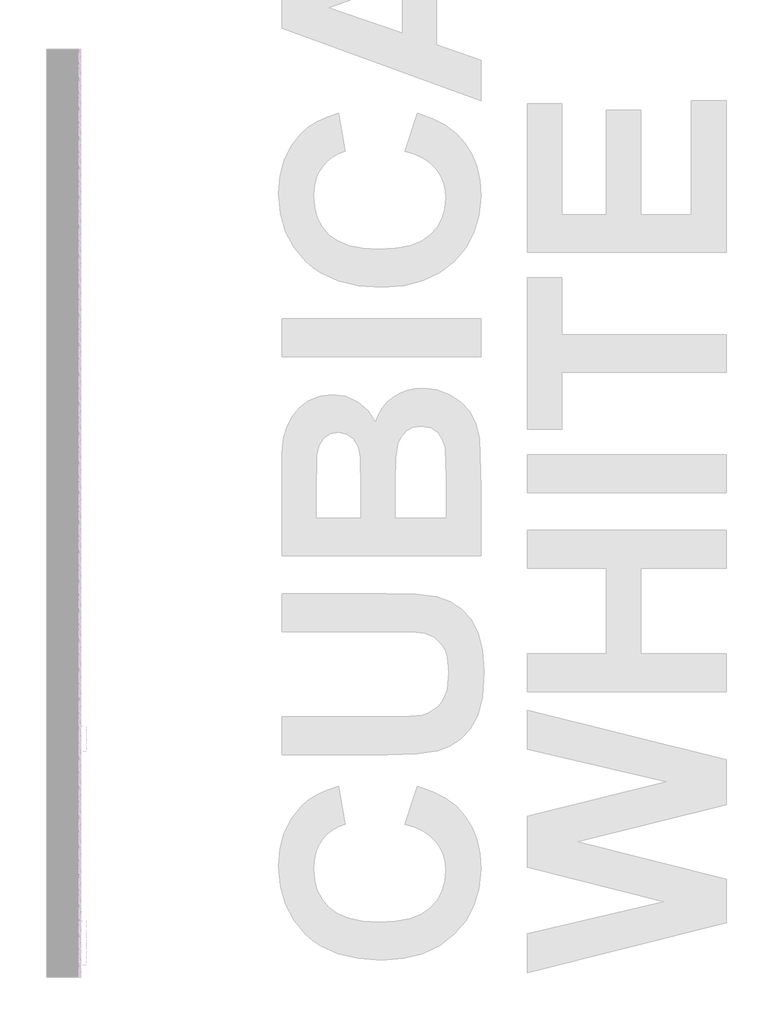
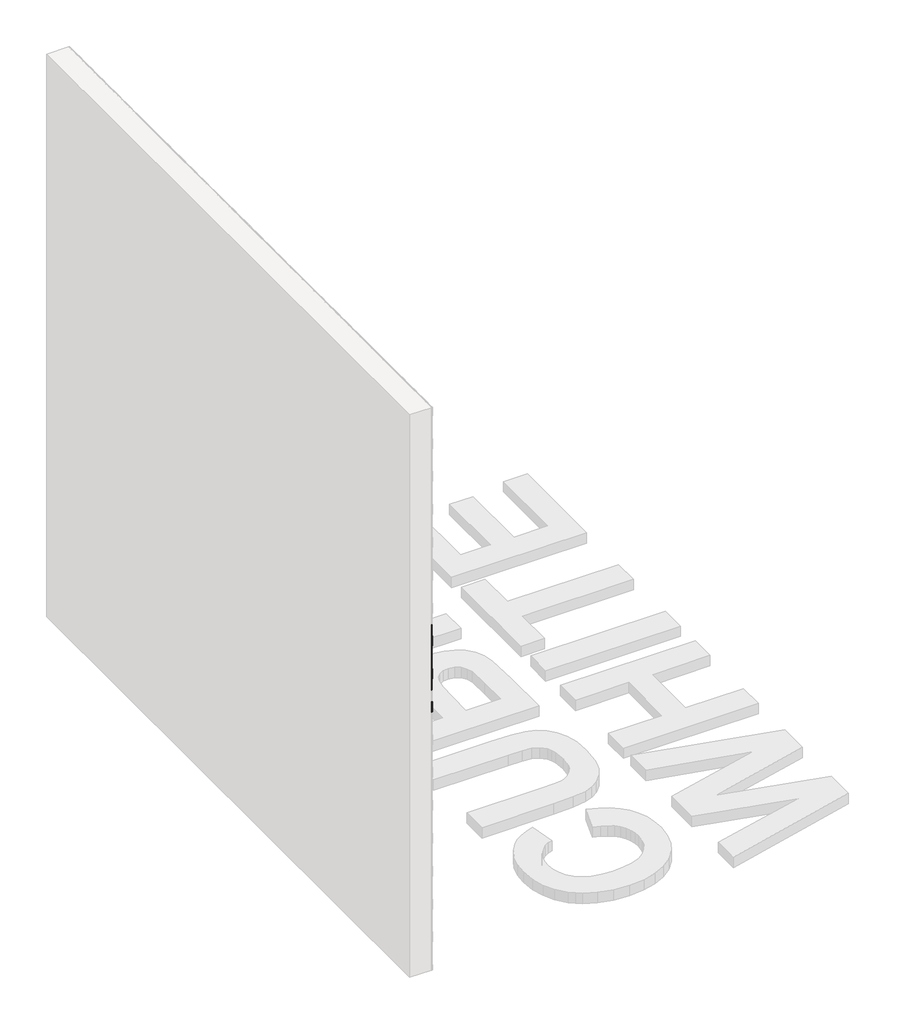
# One storey, part 101 of 121: 144 proxies.
"""IFC4 building model written with IfcOpenShell, lengths in millimetres."""

from ifc_helpers import new_model, si_unit, origin, place, context, project, spatial, transform, mapped, element, save
from components import generic_models_b2b2c5c1, generic_models_9bf73f6f, generic_models_5d175859, generic_models_45888c4d

model = new_model("IFC4")

# Units and contexts
model_context = context("Model", 3, world=origin())
ifc_project = project(units=[si_unit("LENGTHUNIT", "METRE", prefix="MILLI")], contexts=[model_context])

# Site, building, storey
site = spatial("IfcSite", under=ifc_project)
building = spatial("IfcBuilding", under=site)
storey = spatial("IfcBuildingStorey", under=building, Name="PORTOBELLO - SHOWROOM", Elevation=0.0)

# Proxies
placement = place(None, origin())
generic_models_shape = generic_models_b2b2c5c1(model_context)
element("IfcBuildingElementProxy", 1, Name="PBSHOP - CUBICA WHITE 4,8X8,3 : CUBICA WHITE - POSIÇÃO 01", ObjectType="PBSHOP - CUBICA WHITE 4,8X8,3 : CUBICA WHITE - POSIÇÃO 01", at=placement, inside=storey, context=model_context, shape_type="MappedRepresentation", body=[
    mapped(generic_models_shape, transform((150369.5341846, 19241.9673802, 1381.3110192), x_axis=(0.0, 1.0, 0.0), y_axis=(0.0, 0.0, 1.0), z_axis=(1.0, 0.0, 0.0))),
])
element("IfcBuildingElementProxy", 2, Name="PBSHOP - CUBICA WHITE 4,8X8,3 : CUBICA WHITE - POSIÇÃO 01", ObjectType="PBSHOP - CUBICA WHITE 4,8X8,3 : CUBICA WHITE - POSIÇÃO 01", at=placement, inside=storey, context=model_context, shape_type="MappedRepresentation", body=[
    mapped(generic_models_shape, transform((150369.5341846, 19332.8066494, 1381.3110192), x_axis=(0.0, 1.0, 0.0), y_axis=(0.0, 0.0, 1.0), z_axis=(1.0, 0.0, 0.0))),
])
element("IfcBuildingElementProxy", 3, Name="PBSHOP - CUBICA WHITE 4,8X8,3 : CUBICA WHITE - POSIÇÃO 01", ObjectType="PBSHOP - CUBICA WHITE 4,8X8,3 : CUBICA WHITE - POSIÇÃO 01", at=placement, inside=storey, context=model_context, shape_type="MappedRepresentation", body=[
    mapped(generic_models_shape, transform((150369.5341846, 19423.6459187, 1381.3110192), x_axis=(0.0, 1.0, 0.0), y_axis=(0.0, 0.0, 1.0), z_axis=(1.0, 0.0, 0.0))),
])
element("IfcBuildingElementProxy", 4, Name="PBSHOP - CUBICA WHITE 4,8X8,3 : CUBICA WHITE - POSIÇÃO 01", ObjectType="PBSHOP - CUBICA WHITE 4,8X8,3 : CUBICA WHITE - POSIÇÃO 01", at=placement, inside=storey, context=model_context, shape_type="MappedRepresentation", body=[
    mapped(generic_models_shape, transform((150369.5341846, 19514.4851879, 1381.3110192), x_axis=(0.0, 1.0, 0.0), y_axis=(0.0, 0.0, 1.0), z_axis=(1.0, 0.0, 0.0))),
])
element("IfcBuildingElementProxy", 5, Name="PBSHOP - CUBICA WHITE 4,8X8,3 : CUBICA WHITE - POSIÇÃO 01", ObjectType="PBSHOP - CUBICA WHITE 4,8X8,3 : CUBICA WHITE - POSIÇÃO 01", at=placement, inside=storey, context=model_context, shape_type="MappedRepresentation", body=[
    mapped(generic_models_shape, transform((150369.5341846, 19605.3244572, 1381.3110192), x_axis=(0.0, 1.0, 0.0), y_axis=(0.0, 0.0, 1.0), z_axis=(1.0, 0.0, 0.0))),
])
element("IfcBuildingElementProxy", 6, Name="PBSHOP - CUBICA WHITE 4,8X8,3 : CUBICA WHITE - POSIÇÃO 01", ObjectType="PBSHOP - CUBICA WHITE 4,8X8,3 : CUBICA WHITE - POSIÇÃO 01", at=placement, inside=storey, context=model_context, shape_type="MappedRepresentation", body=[
    mapped(generic_models_shape, transform((150369.5341846, 19696.1637264, 1381.3110192), x_axis=(0.0, 1.0, 0.0), y_axis=(0.0, 0.0, 1.0), z_axis=(1.0, 0.0, 0.0))),
])
element("IfcBuildingElementProxy", 7, Name="PBSHOP - CUBICA WHITE 4,8X8,3 : CUBICA WHITE - POSIÇÃO 01", ObjectType="PBSHOP - CUBICA WHITE 4,8X8,3 : CUBICA WHITE - POSIÇÃO 01", at=placement, inside=storey, context=model_context, shape_type="MappedRepresentation", body=[
    mapped(generic_models_shape, transform((150369.5341846, 19787.0029957, 1381.3110192), x_axis=(0.0, 1.0, 0.0), y_axis=(0.0, 0.0, 1.0), z_axis=(1.0, 0.0, 0.0))),
])
element("IfcBuildingElementProxy", 8, Name="PBSHOP - CUBICA WHITE 4,8X8,3 : CUBICA WHITE - POSIÇÃO 01", ObjectType="PBSHOP - CUBICA WHITE 4,8X8,3 : CUBICA WHITE - POSIÇÃO 01", at=placement, inside=storey, context=model_context, shape_type="MappedRepresentation", body=[
    mapped(generic_models_shape, transform((150369.5341846, 19877.8422649, 1381.3110192), x_axis=(0.0, 1.0, 0.0), y_axis=(0.0, 0.0, 1.0), z_axis=(1.0, 0.0, 0.0))),
])
element("IfcBuildingElementProxy", 9, Name="PBSHOP - CUBICA WHITE 4,8X8,3 : CUBICA WHITE - POSIÇÃO 01", ObjectType="PBSHOP - CUBICA WHITE 4,8X8,3 : CUBICA WHITE - POSIÇÃO 01", at=placement, inside=storey, context=model_context, shape_type="MappedRepresentation", body=[
    mapped(generic_models_shape, transform((150369.5341846, 19968.6815341, 1381.3110192), x_axis=(0.0, 1.0, 0.0), y_axis=(0.0, 0.0, 1.0), z_axis=(1.0, 0.0, 0.0))),
])
element("IfcBuildingElementProxy", 10, Name="PBSHOP - CUBICA WHITE 4,8X8,3 : CUBICA WHITE - POSIÇÃO 01", ObjectType="PBSHOP - CUBICA WHITE 4,8X8,3 : CUBICA WHITE - POSIÇÃO 01", at=placement, inside=storey, context=model_context, shape_type="MappedRepresentation", body=[
    mapped(generic_models_shape, transform((150369.5341846, 19196.5477456, 1460.2456575), x_axis=(0.0, 1.0, 0.0), y_axis=(0.0, 0.0, 1.0), z_axis=(1.0, 0.0, 0.0))),
])
element("IfcBuildingElementProxy", 11, Name="PBSHOP - CUBICA WHITE 4,8X8,3 : CUBICA WHITE - POSIÇÃO 01", ObjectType="PBSHOP - CUBICA WHITE 4,8X8,3 : CUBICA WHITE - POSIÇÃO 01", at=placement, inside=storey, context=model_context, shape_type="MappedRepresentation", body=[
    mapped(generic_models_shape, transform((150369.5341846, 19287.3870148, 1460.2456575), x_axis=(0.0, 1.0, 0.0), y_axis=(0.0, 0.0, 1.0), z_axis=(1.0, 0.0, 0.0))),
])
element("IfcBuildingElementProxy", 12, Name="PBSHOP - CUBICA WHITE 4,8X8,3 : CUBICA WHITE - POSIÇÃO 01", ObjectType="PBSHOP - CUBICA WHITE 4,8X8,3 : CUBICA WHITE - POSIÇÃO 01", at=placement, inside=storey, context=model_context, shape_type="MappedRepresentation", body=[
    mapped(generic_models_shape, transform((150369.5341846, 19378.2262841, 1460.2456575), x_axis=(0.0, 1.0, 0.0), y_axis=(0.0, 0.0, 1.0), z_axis=(1.0, 0.0, 0.0))),
])
element("IfcBuildingElementProxy", 13, Name="PBSHOP - CUBICA WHITE 4,8X8,3 : CUBICA WHITE - POSIÇÃO 01", ObjectType="PBSHOP - CUBICA WHITE 4,8X8,3 : CUBICA WHITE - POSIÇÃO 01", at=placement, inside=storey, context=model_context, shape_type="MappedRepresentation", body=[
    mapped(generic_models_shape, transform((150369.5341846, 19469.0655533, 1460.2456575), x_axis=(0.0, 1.0, 0.0), y_axis=(0.0, 0.0, 1.0), z_axis=(1.0, 0.0, 0.0))),
])
element("IfcBuildingElementProxy", 14, Name="PBSHOP - CUBICA WHITE 4,8X8,3 : CUBICA WHITE - POSIÇÃO 01", ObjectType="PBSHOP - CUBICA WHITE 4,8X8,3 : CUBICA WHITE - POSIÇÃO 01", at=placement, inside=storey, context=model_context, shape_type="MappedRepresentation", body=[
    mapped(generic_models_shape, transform((150369.5341846, 19559.9048225, 1460.2456575), x_axis=(0.0, 1.0, 0.0), y_axis=(0.0, 0.0, 1.0), z_axis=(1.0, 0.0, 0.0))),
])
element("IfcBuildingElementProxy", 15, Name="PBSHOP - CUBICA WHITE 4,8X8,3 : CUBICA WHITE - POSIÇÃO 01", ObjectType="PBSHOP - CUBICA WHITE 4,8X8,3 : CUBICA WHITE - POSIÇÃO 01", at=placement, inside=storey, context=model_context, shape_type="MappedRepresentation", body=[
    mapped(generic_models_shape, transform((150369.5341846, 19650.7440918, 1460.2456575), x_axis=(0.0, 1.0, 0.0), y_axis=(0.0, 0.0, 1.0), z_axis=(1.0, 0.0, 0.0))),
])
element("IfcBuildingElementProxy", 16, Name="PBSHOP - CUBICA WHITE 4,8X8,3 : CUBICA WHITE - POSIÇÃO 01", ObjectType="PBSHOP - CUBICA WHITE 4,8X8,3 : CUBICA WHITE - POSIÇÃO 01", at=placement, inside=storey, context=model_context, shape_type="MappedRepresentation", body=[
    mapped(generic_models_shape, transform((150369.5341846, 19741.583361, 1460.2456575), x_axis=(0.0, 1.0, 0.0), y_axis=(0.0, 0.0, 1.0), z_axis=(1.0, 0.0, 0.0))),
])
element("IfcBuildingElementProxy", 17, Name="PBSHOP - CUBICA WHITE 4,8X8,3 : CUBICA WHITE - POSIÇÃO 01", ObjectType="PBSHOP - CUBICA WHITE 4,8X8,3 : CUBICA WHITE - POSIÇÃO 01", at=placement, inside=storey, context=model_context, shape_type="MappedRepresentation", body=[
    mapped(generic_models_shape, transform((150369.5341846, 19832.4226303, 1460.2456575), x_axis=(0.0, 1.0, 0.0), y_axis=(0.0, 0.0, 1.0), z_axis=(1.0, 0.0, 0.0))),
])
element("IfcBuildingElementProxy", 18, Name="PBSHOP - CUBICA WHITE 4,8X8,3 : CUBICA WHITE - POSIÇÃO 01", ObjectType="PBSHOP - CUBICA WHITE 4,8X8,3 : CUBICA WHITE - POSIÇÃO 01", at=placement, inside=storey, context=model_context, shape_type="MappedRepresentation", body=[
    mapped(generic_models_shape, transform((150369.5341846, 19923.2618995, 1460.2456575), x_axis=(0.0, 1.0, 0.0), y_axis=(0.0, 0.0, 1.0), z_axis=(1.0, 0.0, 0.0))),
])
element("IfcBuildingElementProxy", 19, Name="PBSHOP - CUBICA WHITE 4,8X8,3 : CUBICA WHITE - POSIÇÃO 01", ObjectType="PBSHOP - CUBICA WHITE 4,8X8,3 : CUBICA WHITE - POSIÇÃO 01", at=placement, inside=storey, context=model_context, shape_type="MappedRepresentation", body=[
    mapped(generic_models_shape, transform((150369.5341846, 19241.9673802, 1539.1802959), x_axis=(0.0, 1.0, 0.0), y_axis=(0.0, 0.0, 1.0), z_axis=(1.0, 0.0, 0.0))),
])
element("IfcBuildingElementProxy", 20, Name="PBSHOP - CUBICA WHITE 4,8X8,3 : CUBICA WHITE - POSIÇÃO 01", ObjectType="PBSHOP - CUBICA WHITE 4,8X8,3 : CUBICA WHITE - POSIÇÃO 01", at=placement, inside=storey, context=model_context, shape_type="MappedRepresentation", body=[
    mapped(generic_models_shape, transform((150369.5341846, 19332.8066494, 1539.1802959), x_axis=(0.0, 1.0, 0.0), y_axis=(0.0, 0.0, 1.0), z_axis=(1.0, 0.0, 0.0))),
])
element("IfcBuildingElementProxy", 21, Name="PBSHOP - CUBICA WHITE 4,8X8,3 : CUBICA WHITE - POSIÇÃO 01", ObjectType="PBSHOP - CUBICA WHITE 4,8X8,3 : CUBICA WHITE - POSIÇÃO 01", at=placement, inside=storey, context=model_context, shape_type="MappedRepresentation", body=[
    mapped(generic_models_shape, transform((150369.5341846, 19423.6459187, 1539.1802959), x_axis=(0.0, 1.0, 0.0), y_axis=(0.0, 0.0, 1.0), z_axis=(1.0, 0.0, 0.0))),
])
element("IfcBuildingElementProxy", 22, Name="PBSHOP - CUBICA WHITE 4,8X8,3 : CUBICA WHITE - POSIÇÃO 01", ObjectType="PBSHOP - CUBICA WHITE 4,8X8,3 : CUBICA WHITE - POSIÇÃO 01", at=placement, inside=storey, context=model_context, shape_type="MappedRepresentation", body=[
    mapped(generic_models_shape, transform((150369.5341846, 19514.4851879, 1539.1802959), x_axis=(0.0, 1.0, 0.0), y_axis=(0.0, 0.0, 1.0), z_axis=(1.0, 0.0, 0.0))),
])
element("IfcBuildingElementProxy", 23, Name="PBSHOP - CUBICA WHITE 4,8X8,3 : CUBICA WHITE - POSIÇÃO 01", ObjectType="PBSHOP - CUBICA WHITE 4,8X8,3 : CUBICA WHITE - POSIÇÃO 01", at=placement, inside=storey, context=model_context, shape_type="MappedRepresentation", body=[
    mapped(generic_models_shape, transform((150369.5341846, 19605.3244572, 1539.1802959), x_axis=(0.0, 1.0, 0.0), y_axis=(0.0, 0.0, 1.0), z_axis=(1.0, 0.0, 0.0))),
])
element("IfcBuildingElementProxy", 24, Name="PBSHOP - CUBICA WHITE 4,8X8,3 : CUBICA WHITE - POSIÇÃO 01", ObjectType="PBSHOP - CUBICA WHITE 4,8X8,3 : CUBICA WHITE - POSIÇÃO 01", at=placement, inside=storey, context=model_context, shape_type="MappedRepresentation", body=[
    mapped(generic_models_shape, transform((150369.5341846, 19696.1637264, 1539.1802959), x_axis=(0.0, 1.0, 0.0), y_axis=(0.0, 0.0, 1.0), z_axis=(1.0, 0.0, 0.0))),
])
element("IfcBuildingElementProxy", 25, Name="PBSHOP - CUBICA WHITE 4,8X8,3 : CUBICA WHITE - POSIÇÃO 01", ObjectType="PBSHOP - CUBICA WHITE 4,8X8,3 : CUBICA WHITE - POSIÇÃO 01", at=placement, inside=storey, context=model_context, shape_type="MappedRepresentation", body=[
    mapped(generic_models_shape, transform((150369.5341846, 19787.0029957, 1539.1802959), x_axis=(0.0, 1.0, 0.0), y_axis=(0.0, 0.0, 1.0), z_axis=(1.0, 0.0, 0.0))),
])
element("IfcBuildingElementProxy", 26, Name="PBSHOP - CUBICA WHITE 4,8X8,3 : CUBICA WHITE - POSIÇÃO 01", ObjectType="PBSHOP - CUBICA WHITE 4,8X8,3 : CUBICA WHITE - POSIÇÃO 01", at=placement, inside=storey, context=model_context, shape_type="MappedRepresentation", body=[
    mapped(generic_models_shape, transform((150369.5341846, 19877.8422649, 1539.1802959), x_axis=(0.0, 1.0, 0.0), y_axis=(0.0, 0.0, 1.0), z_axis=(1.0, 0.0, 0.0))),
])
element("IfcBuildingElementProxy", 27, Name="PBSHOP - CUBICA WHITE 4,8X8,3 : CUBICA WHITE - POSIÇÃO 01", ObjectType="PBSHOP - CUBICA WHITE 4,8X8,3 : CUBICA WHITE - POSIÇÃO 01", at=placement, inside=storey, context=model_context, shape_type="MappedRepresentation", body=[
    mapped(generic_models_shape, transform((150369.5341846, 19968.6815341, 1539.1802959), x_axis=(0.0, 1.0, 0.0), y_axis=(0.0, 0.0, 1.0), z_axis=(1.0, 0.0, 0.0))),
])
element("IfcBuildingElementProxy", 28, Name="PBSHOP - CUBICA WHITE 4,8X8,3 : CUBICA WHITE - POSIÇÃO 01", ObjectType="PBSHOP - CUBICA WHITE 4,8X8,3 : CUBICA WHITE - POSIÇÃO 01", at=placement, inside=storey, context=model_context, shape_type="MappedRepresentation", body=[
    mapped(generic_models_shape, transform((150369.5341846, 19196.5477456, 1618.1149343), x_axis=(0.0, 1.0, 0.0), y_axis=(0.0, 0.0, 1.0), z_axis=(1.0, 0.0, 0.0))),
])
element("IfcBuildingElementProxy", 29, Name="PBSHOP - CUBICA WHITE 4,8X8,3 : CUBICA WHITE - POSIÇÃO 01", ObjectType="PBSHOP - CUBICA WHITE 4,8X8,3 : CUBICA WHITE - POSIÇÃO 01", at=placement, inside=storey, context=model_context, shape_type="MappedRepresentation", body=[
    mapped(generic_models_shape, transform((150369.5341846, 19287.3870148, 1618.1149343), x_axis=(0.0, 1.0, 0.0), y_axis=(0.0, 0.0, 1.0), z_axis=(1.0, 0.0, 0.0))),
])
element("IfcBuildingElementProxy", 30, Name="PBSHOP - CUBICA WHITE 4,8X8,3 : CUBICA WHITE - POSIÇÃO 01", ObjectType="PBSHOP - CUBICA WHITE 4,8X8,3 : CUBICA WHITE - POSIÇÃO 01", at=placement, inside=storey, context=model_context, shape_type="MappedRepresentation", body=[
    mapped(generic_models_shape, transform((150369.5341846, 19378.2262841, 1618.1149343), x_axis=(0.0, 1.0, 0.0), y_axis=(0.0, 0.0, 1.0), z_axis=(1.0, 0.0, 0.0))),
])
element("IfcBuildingElementProxy", 31, Name="PBSHOP - CUBICA WHITE 4,8X8,3 : CUBICA WHITE - POSIÇÃO 01", ObjectType="PBSHOP - CUBICA WHITE 4,8X8,3 : CUBICA WHITE - POSIÇÃO 01", at=placement, inside=storey, context=model_context, shape_type="MappedRepresentation", body=[
    mapped(generic_models_shape, transform((150369.5341846, 19469.0655533, 1618.1149343), x_axis=(0.0, 1.0, 0.0), y_axis=(0.0, 0.0, 1.0), z_axis=(1.0, 0.0, 0.0))),
])
element("IfcBuildingElementProxy", 32, Name="PBSHOP - CUBICA WHITE 4,8X8,3 : CUBICA WHITE - POSIÇÃO 01", ObjectType="PBSHOP - CUBICA WHITE 4,8X8,3 : CUBICA WHITE - POSIÇÃO 01", at=placement, inside=storey, context=model_context, shape_type="MappedRepresentation", body=[
    mapped(generic_models_shape, transform((150369.5341846, 19559.9048225, 1618.1149343), x_axis=(0.0, 1.0, 0.0), y_axis=(0.0, 0.0, 1.0), z_axis=(1.0, 0.0, 0.0))),
])
element("IfcBuildingElementProxy", 33, Name="PBSHOP - CUBICA WHITE 4,8X8,3 : CUBICA WHITE - POSIÇÃO 01", ObjectType="PBSHOP - CUBICA WHITE 4,8X8,3 : CUBICA WHITE - POSIÇÃO 01", at=placement, inside=storey, context=model_context, shape_type="MappedRepresentation", body=[
    mapped(generic_models_shape, transform((150369.5341846, 19650.7440918, 1618.1149343), x_axis=(0.0, 1.0, 0.0), y_axis=(0.0, 0.0, 1.0), z_axis=(1.0, 0.0, 0.0))),
])
element("IfcBuildingElementProxy", 34, Name="PBSHOP - CUBICA WHITE 4,8X8,3 : CUBICA WHITE - POSIÇÃO 01", ObjectType="PBSHOP - CUBICA WHITE 4,8X8,3 : CUBICA WHITE - POSIÇÃO 01", at=placement, inside=storey, context=model_context, shape_type="MappedRepresentation", body=[
    mapped(generic_models_shape, transform((150369.5341846, 19741.583361, 1618.1149343), x_axis=(0.0, 1.0, 0.0), y_axis=(0.0, 0.0, 1.0), z_axis=(1.0, 0.0, 0.0))),
])
element("IfcBuildingElementProxy", 35, Name="PBSHOP - CUBICA WHITE 4,8X8,3 : CUBICA WHITE - POSIÇÃO 01", ObjectType="PBSHOP - CUBICA WHITE 4,8X8,3 : CUBICA WHITE - POSIÇÃO 01", at=placement, inside=storey, context=model_context, shape_type="MappedRepresentation", body=[
    mapped(generic_models_shape, transform((150369.5341846, 19832.4226303, 1618.1149343), x_axis=(0.0, 1.0, 0.0), y_axis=(0.0, 0.0, 1.0), z_axis=(1.0, 0.0, 0.0))),
])
element("IfcBuildingElementProxy", 36, Name="PBSHOP - CUBICA WHITE 4,8X8,3 : CUBICA WHITE - POSIÇÃO 01", ObjectType="PBSHOP - CUBICA WHITE 4,8X8,3 : CUBICA WHITE - POSIÇÃO 01", at=placement, inside=storey, context=model_context, shape_type="MappedRepresentation", body=[
    mapped(generic_models_shape, transform((150369.5341846, 19923.2618995, 1618.1149343), x_axis=(0.0, 1.0, 0.0), y_axis=(0.0, 0.0, 1.0), z_axis=(1.0, 0.0, 0.0))),
])
element("IfcBuildingElementProxy", 37, Name="PBSHOP - CUBICA WHITE 4,8X8,3 : CUBICA WHITE - POSIÇÃO 01", ObjectType="PBSHOP - CUBICA WHITE 4,8X8,3 : CUBICA WHITE - POSIÇÃO 01", at=placement, inside=storey, context=model_context, shape_type="MappedRepresentation", body=[
    mapped(generic_models_shape, transform((150369.5341846, 19241.9673802, 1697.0495727), x_axis=(0.0, 1.0, 0.0), y_axis=(0.0, 0.0, 1.0), z_axis=(1.0, 0.0, 0.0))),
])
element("IfcBuildingElementProxy", 38, Name="PBSHOP - CUBICA WHITE 4,8X8,3 : CUBICA WHITE - POSIÇÃO 01", ObjectType="PBSHOP - CUBICA WHITE 4,8X8,3 : CUBICA WHITE - POSIÇÃO 01", at=placement, inside=storey, context=model_context, shape_type="MappedRepresentation", body=[
    mapped(generic_models_shape, transform((150369.5341846, 19332.8066494, 1697.0495727), x_axis=(0.0, 1.0, 0.0), y_axis=(0.0, 0.0, 1.0), z_axis=(1.0, 0.0, 0.0))),
])
element("IfcBuildingElementProxy", 39, Name="PBSHOP - CUBICA WHITE 4,8X8,3 : CUBICA WHITE - POSIÇÃO 01", ObjectType="PBSHOP - CUBICA WHITE 4,8X8,3 : CUBICA WHITE - POSIÇÃO 01", at=placement, inside=storey, context=model_context, shape_type="MappedRepresentation", body=[
    mapped(generic_models_shape, transform((150369.5341846, 19423.6459187, 1697.0495727), x_axis=(0.0, 1.0, 0.0), y_axis=(0.0, 0.0, 1.0), z_axis=(1.0, 0.0, 0.0))),
])
element("IfcBuildingElementProxy", 40, Name="PBSHOP - CUBICA WHITE 4,8X8,3 : CUBICA WHITE - POSIÇÃO 01", ObjectType="PBSHOP - CUBICA WHITE 4,8X8,3 : CUBICA WHITE - POSIÇÃO 01", at=placement, inside=storey, context=model_context, shape_type="MappedRepresentation", body=[
    mapped(generic_models_shape, transform((150369.5341846, 19514.4851879, 1697.0495727), x_axis=(0.0, 1.0, 0.0), y_axis=(0.0, 0.0, 1.0), z_axis=(1.0, 0.0, 0.0))),
])
element("IfcBuildingElementProxy", 41, Name="PBSHOP - CUBICA WHITE 4,8X8,3 : CUBICA WHITE - POSIÇÃO 01", ObjectType="PBSHOP - CUBICA WHITE 4,8X8,3 : CUBICA WHITE - POSIÇÃO 01", at=placement, inside=storey, context=model_context, shape_type="MappedRepresentation", body=[
    mapped(generic_models_shape, transform((150369.5341846, 19605.3244572, 1697.0495727), x_axis=(0.0, 1.0, 0.0), y_axis=(0.0, 0.0, 1.0), z_axis=(1.0, 0.0, 0.0))),
])
element("IfcBuildingElementProxy", 42, Name="PBSHOP - CUBICA WHITE 4,8X8,3 : CUBICA WHITE - POSIÇÃO 01", ObjectType="PBSHOP - CUBICA WHITE 4,8X8,3 : CUBICA WHITE - POSIÇÃO 01", at=placement, inside=storey, context=model_context, shape_type="MappedRepresentation", body=[
    mapped(generic_models_shape, transform((150369.5341846, 19696.1637264, 1697.0495727), x_axis=(0.0, 1.0, 0.0), y_axis=(0.0, 0.0, 1.0), z_axis=(1.0, 0.0, 0.0))),
])
element("IfcBuildingElementProxy", 43, Name="PBSHOP - CUBICA WHITE 4,8X8,3 : CUBICA WHITE - POSIÇÃO 01", ObjectType="PBSHOP - CUBICA WHITE 4,8X8,3 : CUBICA WHITE - POSIÇÃO 01", at=placement, inside=storey, context=model_context, shape_type="MappedRepresentation", body=[
    mapped(generic_models_shape, transform((150369.5341846, 19787.0029957, 1697.0495727), x_axis=(0.0, 1.0, 0.0), y_axis=(0.0, 0.0, 1.0), z_axis=(1.0, 0.0, 0.0))),
])
element("IfcBuildingElementProxy", 44, Name="PBSHOP - CUBICA WHITE 4,8X8,3 : CUBICA WHITE - POSIÇÃO 01", ObjectType="PBSHOP - CUBICA WHITE 4,8X8,3 : CUBICA WHITE - POSIÇÃO 01", at=placement, inside=storey, context=model_context, shape_type="MappedRepresentation", body=[
    mapped(generic_models_shape, transform((150369.5341846, 19877.8422649, 1697.0495727), x_axis=(0.0, 1.0, 0.0), y_axis=(0.0, 0.0, 1.0), z_axis=(1.0, 0.0, 0.0))),
])
element("IfcBuildingElementProxy", 45, Name="PBSHOP - CUBICA WHITE 4,8X8,3 : CUBICA WHITE - POSIÇÃO 01", ObjectType="PBSHOP - CUBICA WHITE 4,8X8,3 : CUBICA WHITE - POSIÇÃO 01", at=placement, inside=storey, context=model_context, shape_type="MappedRepresentation", body=[
    mapped(generic_models_shape, transform((150369.5341846, 19968.6815341, 1697.0495727), x_axis=(0.0, 1.0, 0.0), y_axis=(0.0, 0.0, 1.0), z_axis=(1.0, 0.0, 0.0))),
])
generic_models_2_shape = generic_models_9bf73f6f(model_context)
element("IfcBuildingElementProxy", 46, Name="PBSHOP - CUBICA WHITE 4,8X8,3 : CUBICA WHITE - POSIÇÃO 03", ObjectType="PBSHOP - CUBICA WHITE 4,8X8,3 : CUBICA WHITE - POSIÇÃO 03", at=placement, inside=storey, context=model_context, shape_type="MappedRepresentation", body=[
    mapped(generic_models_2_shape, transform((150369.5341846, 19264.6793567, 1262.8678512), x_axis=(0.0, 1.0, 0.0), y_axis=(0.0, 0.0, 1.0), z_axis=(1.0, 0.0, 0.0))),
])
element("IfcBuildingElementProxy", 47, Name="PBSHOP - CUBICA WHITE 4,8X8,3 : CUBICA WHITE - POSIÇÃO 03", ObjectType="PBSHOP - CUBICA WHITE 4,8X8,3 : CUBICA WHITE - POSIÇÃO 03", at=placement, inside=storey, context=model_context, shape_type="MappedRepresentation", body=[
    mapped(generic_models_2_shape, transform((150369.5341846, 19355.5186259, 1262.8678512), x_axis=(0.0, 1.0, 0.0), y_axis=(0.0, 0.0, 1.0), z_axis=(1.0, 0.0, 0.0))),
])
element("IfcBuildingElementProxy", 48, Name="PBSHOP - CUBICA WHITE 4,8X8,3 : CUBICA WHITE - POSIÇÃO 03", ObjectType="PBSHOP - CUBICA WHITE 4,8X8,3 : CUBICA WHITE - POSIÇÃO 03", at=placement, inside=storey, context=model_context, shape_type="MappedRepresentation", body=[
    mapped(generic_models_2_shape, transform((150369.5341846, 19446.3578952, 1262.8678512), x_axis=(0.0, 1.0, 0.0), y_axis=(0.0, 0.0, 1.0), z_axis=(1.0, 0.0, 0.0))),
])
element("IfcBuildingElementProxy", 49, Name="PBSHOP - CUBICA WHITE 4,8X8,3 : CUBICA WHITE - POSIÇÃO 03", ObjectType="PBSHOP - CUBICA WHITE 4,8X8,3 : CUBICA WHITE - POSIÇÃO 03", at=placement, inside=storey, context=model_context, shape_type="MappedRepresentation", body=[
    mapped(generic_models_2_shape, transform((150369.5341846, 19537.1971644, 1262.8678512), x_axis=(0.0, 1.0, 0.0), y_axis=(0.0, 0.0, 1.0), z_axis=(1.0, 0.0, 0.0))),
])
element("IfcBuildingElementProxy", 50, Name="PBSHOP - CUBICA WHITE 4,8X8,3 : CUBICA WHITE - POSIÇÃO 03", ObjectType="PBSHOP - CUBICA WHITE 4,8X8,3 : CUBICA WHITE - POSIÇÃO 03", at=placement, inside=storey, context=model_context, shape_type="MappedRepresentation", body=[
    mapped(generic_models_2_shape, transform((150369.5341846, 19628.0364336, 1262.8678512), x_axis=(0.0, 1.0, 0.0), y_axis=(0.0, 0.0, 1.0), z_axis=(1.0, 0.0, 0.0))),
])
element("IfcBuildingElementProxy", 51, Name="PBSHOP - CUBICA WHITE 4,8X8,3 : CUBICA WHITE - POSIÇÃO 03", ObjectType="PBSHOP - CUBICA WHITE 4,8X8,3 : CUBICA WHITE - POSIÇÃO 03", at=placement, inside=storey, context=model_context, shape_type="MappedRepresentation", body=[
    mapped(generic_models_2_shape, transform((150369.5341846, 19718.8757029, 1262.8678512), x_axis=(0.0, 1.0, 0.0), y_axis=(0.0, 0.0, 1.0), z_axis=(1.0, 0.0, 0.0))),
])
element("IfcBuildingElementProxy", 52, Name="PBSHOP - CUBICA WHITE 4,8X8,3 : CUBICA WHITE - POSIÇÃO 03", ObjectType="PBSHOP - CUBICA WHITE 4,8X8,3 : CUBICA WHITE - POSIÇÃO 03", at=placement, inside=storey, context=model_context, shape_type="MappedRepresentation", body=[
    mapped(generic_models_2_shape, transform((150369.5341846, 19809.7149721, 1262.8678512), x_axis=(0.0, 1.0, 0.0), y_axis=(0.0, 0.0, 1.0), z_axis=(1.0, 0.0, 0.0))),
])
element("IfcBuildingElementProxy", 53, Name="PBSHOP - CUBICA WHITE 4,8X8,3 : CUBICA WHITE - POSIÇÃO 03", ObjectType="PBSHOP - CUBICA WHITE 4,8X8,3 : CUBICA WHITE - POSIÇÃO 03", at=placement, inside=storey, context=model_context, shape_type="MappedRepresentation", body=[
    mapped(generic_models_2_shape, transform((150369.5341846, 19900.5542414, 1262.8678512), x_axis=(0.0, 1.0, 0.0), y_axis=(0.0, 0.0, 1.0), z_axis=(1.0, 0.0, 0.0))),
])
element("IfcBuildingElementProxy", 54, Name="PBSHOP - CUBICA WHITE 4,8X8,3 : CUBICA WHITE - POSIÇÃO 03", ObjectType="PBSHOP - CUBICA WHITE 4,8X8,3 : CUBICA WHITE - POSIÇÃO 03", at=placement, inside=storey, context=model_context, shape_type="MappedRepresentation", body=[
    mapped(generic_models_2_shape, transform((150369.5341846, 19991.3935106, 1262.8678512), x_axis=(0.0, 1.0, 0.0), y_axis=(0.0, 0.0, 1.0), z_axis=(1.0, 0.0, 0.0))),
])
element("IfcBuildingElementProxy", 55, Name="PBSHOP - CUBICA WHITE 4,8X8,3 : CUBICA WHITE - POSIÇÃO 03", ObjectType="PBSHOP - CUBICA WHITE 4,8X8,3 : CUBICA WHITE - POSIÇÃO 03", at=placement, inside=storey, context=model_context, shape_type="MappedRepresentation", body=[
    mapped(generic_models_2_shape, transform((150369.5341846, 19219.259722, 1341.8024896), x_axis=(0.0, 1.0, 0.0), y_axis=(0.0, 0.0, 1.0), z_axis=(1.0, 0.0, 0.0))),
])
element("IfcBuildingElementProxy", 56, Name="PBSHOP - CUBICA WHITE 4,8X8,3 : CUBICA WHITE - POSIÇÃO 03", ObjectType="PBSHOP - CUBICA WHITE 4,8X8,3 : CUBICA WHITE - POSIÇÃO 03", at=placement, inside=storey, context=model_context, shape_type="MappedRepresentation", body=[
    mapped(generic_models_2_shape, transform((150369.5341846, 19310.0989913, 1341.8024896), x_axis=(0.0, 1.0, 0.0), y_axis=(0.0, 0.0, 1.0), z_axis=(1.0, 0.0, 0.0))),
])
element("IfcBuildingElementProxy", 57, Name="PBSHOP - CUBICA WHITE 4,8X8,3 : CUBICA WHITE - POSIÇÃO 03", ObjectType="PBSHOP - CUBICA WHITE 4,8X8,3 : CUBICA WHITE - POSIÇÃO 03", at=placement, inside=storey, context=model_context, shape_type="MappedRepresentation", body=[
    mapped(generic_models_2_shape, transform((150369.5341846, 19400.9382605, 1341.8024896), x_axis=(0.0, 1.0, 0.0), y_axis=(0.0, 0.0, 1.0), z_axis=(1.0, 0.0, 0.0))),
])
element("IfcBuildingElementProxy", 58, Name="PBSHOP - CUBICA WHITE 4,8X8,3 : CUBICA WHITE - POSIÇÃO 03", ObjectType="PBSHOP - CUBICA WHITE 4,8X8,3 : CUBICA WHITE - POSIÇÃO 03", at=placement, inside=storey, context=model_context, shape_type="MappedRepresentation", body=[
    mapped(generic_models_2_shape, transform((150369.5341846, 19491.7775298, 1341.8024896), x_axis=(0.0, 1.0, 0.0), y_axis=(0.0, 0.0, 1.0), z_axis=(1.0, 0.0, 0.0))),
])
element("IfcBuildingElementProxy", 59, Name="PBSHOP - CUBICA WHITE 4,8X8,3 : CUBICA WHITE - POSIÇÃO 03", ObjectType="PBSHOP - CUBICA WHITE 4,8X8,3 : CUBICA WHITE - POSIÇÃO 03", at=placement, inside=storey, context=model_context, shape_type="MappedRepresentation", body=[
    mapped(generic_models_2_shape, transform((150369.5341846, 19582.616799, 1341.8024896), x_axis=(0.0, 1.0, 0.0), y_axis=(0.0, 0.0, 1.0), z_axis=(1.0, 0.0, 0.0))),
])
element("IfcBuildingElementProxy", 60, Name="PBSHOP - CUBICA WHITE 4,8X8,3 : CUBICA WHITE - POSIÇÃO 03", ObjectType="PBSHOP - CUBICA WHITE 4,8X8,3 : CUBICA WHITE - POSIÇÃO 03", at=placement, inside=storey, context=model_context, shape_type="MappedRepresentation", body=[
    mapped(generic_models_2_shape, transform((150369.5341846, 19673.4560683, 1341.8024896), x_axis=(0.0, 1.0, 0.0), y_axis=(0.0, 0.0, 1.0), z_axis=(1.0, 0.0, 0.0))),
])
element("IfcBuildingElementProxy", 61, Name="PBSHOP - CUBICA WHITE 4,8X8,3 : CUBICA WHITE - POSIÇÃO 03", ObjectType="PBSHOP - CUBICA WHITE 4,8X8,3 : CUBICA WHITE - POSIÇÃO 03", at=placement, inside=storey, context=model_context, shape_type="MappedRepresentation", body=[
    mapped(generic_models_2_shape, transform((150369.5341846, 19764.2953375, 1341.8024896), x_axis=(0.0, 1.0, 0.0), y_axis=(0.0, 0.0, 1.0), z_axis=(1.0, 0.0, 0.0))),
])
element("IfcBuildingElementProxy", 62, Name="PBSHOP - CUBICA WHITE 4,8X8,3 : CUBICA WHITE - POSIÇÃO 03", ObjectType="PBSHOP - CUBICA WHITE 4,8X8,3 : CUBICA WHITE - POSIÇÃO 03", at=placement, inside=storey, context=model_context, shape_type="MappedRepresentation", body=[
    mapped(generic_models_2_shape, transform((150369.5341846, 19855.1346068, 1341.8024896), x_axis=(0.0, 1.0, 0.0), y_axis=(0.0, 0.0, 1.0), z_axis=(1.0, 0.0, 0.0))),
])
element("IfcBuildingElementProxy", 63, Name="PBSHOP - CUBICA WHITE 4,8X8,3 : CUBICA WHITE - POSIÇÃO 03", ObjectType="PBSHOP - CUBICA WHITE 4,8X8,3 : CUBICA WHITE - POSIÇÃO 03", at=placement, inside=storey, context=model_context, shape_type="MappedRepresentation", body=[
    mapped(generic_models_2_shape, transform((150369.5341846, 19945.973876, 1341.8024896), x_axis=(0.0, 1.0, 0.0), y_axis=(0.0, 0.0, 1.0), z_axis=(1.0, 0.0, 0.0))),
])
element("IfcBuildingElementProxy", 64, Name="PBSHOP - CUBICA WHITE 4,8X8,3 : CUBICA WHITE - POSIÇÃO 03", ObjectType="PBSHOP - CUBICA WHITE 4,8X8,3 : CUBICA WHITE - POSIÇÃO 03", at=placement, inside=storey, context=model_context, shape_type="MappedRepresentation", body=[
    mapped(generic_models_2_shape, transform((150369.5341846, 19264.6793567, 1420.7371279), x_axis=(0.0, 1.0, 0.0), y_axis=(0.0, 0.0, 1.0), z_axis=(1.0, 0.0, 0.0))),
])
element("IfcBuildingElementProxy", 65, Name="PBSHOP - CUBICA WHITE 4,8X8,3 : CUBICA WHITE - POSIÇÃO 03", ObjectType="PBSHOP - CUBICA WHITE 4,8X8,3 : CUBICA WHITE - POSIÇÃO 03", at=placement, inside=storey, context=model_context, shape_type="MappedRepresentation", body=[
    mapped(generic_models_2_shape, transform((150369.5341846, 19355.5186259, 1420.7371279), x_axis=(0.0, 1.0, 0.0), y_axis=(0.0, 0.0, 1.0), z_axis=(1.0, 0.0, 0.0))),
])
element("IfcBuildingElementProxy", 66, Name="PBSHOP - CUBICA WHITE 4,8X8,3 : CUBICA WHITE - POSIÇÃO 03", ObjectType="PBSHOP - CUBICA WHITE 4,8X8,3 : CUBICA WHITE - POSIÇÃO 03", at=placement, inside=storey, context=model_context, shape_type="MappedRepresentation", body=[
    mapped(generic_models_2_shape, transform((150369.5341846, 19446.3578952, 1420.7371279), x_axis=(0.0, 1.0, 0.0), y_axis=(0.0, 0.0, 1.0), z_axis=(1.0, 0.0, 0.0))),
])
element("IfcBuildingElementProxy", 67, Name="PBSHOP - CUBICA WHITE 4,8X8,3 : CUBICA WHITE - POSIÇÃO 03", ObjectType="PBSHOP - CUBICA WHITE 4,8X8,3 : CUBICA WHITE - POSIÇÃO 03", at=placement, inside=storey, context=model_context, shape_type="MappedRepresentation", body=[
    mapped(generic_models_2_shape, transform((150369.5341846, 19537.1971644, 1420.7371279), x_axis=(0.0, 1.0, 0.0), y_axis=(0.0, 0.0, 1.0), z_axis=(1.0, 0.0, 0.0))),
])
element("IfcBuildingElementProxy", 68, Name="PBSHOP - CUBICA WHITE 4,8X8,3 : CUBICA WHITE - POSIÇÃO 03", ObjectType="PBSHOP - CUBICA WHITE 4,8X8,3 : CUBICA WHITE - POSIÇÃO 03", at=placement, inside=storey, context=model_context, shape_type="MappedRepresentation", body=[
    mapped(generic_models_2_shape, transform((150369.5341846, 19628.0364336, 1420.7371279), x_axis=(0.0, 1.0, 0.0), y_axis=(0.0, 0.0, 1.0), z_axis=(1.0, 0.0, 0.0))),
])
element("IfcBuildingElementProxy", 69, Name="PBSHOP - CUBICA WHITE 4,8X8,3 : CUBICA WHITE - POSIÇÃO 03", ObjectType="PBSHOP - CUBICA WHITE 4,8X8,3 : CUBICA WHITE - POSIÇÃO 03", at=placement, inside=storey, context=model_context, shape_type="MappedRepresentation", body=[
    mapped(generic_models_2_shape, transform((150369.5341846, 19718.8757029, 1420.7371279), x_axis=(0.0, 1.0, 0.0), y_axis=(0.0, 0.0, 1.0), z_axis=(1.0, 0.0, 0.0))),
])
element("IfcBuildingElementProxy", 70, Name="PBSHOP - CUBICA WHITE 4,8X8,3 : CUBICA WHITE - POSIÇÃO 03", ObjectType="PBSHOP - CUBICA WHITE 4,8X8,3 : CUBICA WHITE - POSIÇÃO 03", at=placement, inside=storey, context=model_context, shape_type="MappedRepresentation", body=[
    mapped(generic_models_2_shape, transform((150369.5341846, 19809.7149721, 1420.7371279), x_axis=(0.0, 1.0, 0.0), y_axis=(0.0, 0.0, 1.0), z_axis=(1.0, 0.0, 0.0))),
])
element("IfcBuildingElementProxy", 71, Name="PBSHOP - CUBICA WHITE 4,8X8,3 : CUBICA WHITE - POSIÇÃO 03", ObjectType="PBSHOP - CUBICA WHITE 4,8X8,3 : CUBICA WHITE - POSIÇÃO 03", at=placement, inside=storey, context=model_context, shape_type="MappedRepresentation", body=[
    mapped(generic_models_2_shape, transform((150369.5341846, 19900.5542414, 1420.7371279), x_axis=(0.0, 1.0, 0.0), y_axis=(0.0, 0.0, 1.0), z_axis=(1.0, 0.0, 0.0))),
])
element("IfcBuildingElementProxy", 72, Name="PBSHOP - CUBICA WHITE 4,8X8,3 : CUBICA WHITE - POSIÇÃO 03", ObjectType="PBSHOP - CUBICA WHITE 4,8X8,3 : CUBICA WHITE - POSIÇÃO 03", at=placement, inside=storey, context=model_context, shape_type="MappedRepresentation", body=[
    mapped(generic_models_2_shape, transform((150369.5341846, 19991.3935106, 1420.7371279), x_axis=(0.0, 1.0, 0.0), y_axis=(0.0, 0.0, 1.0), z_axis=(1.0, 0.0, 0.0))),
])
element("IfcBuildingElementProxy", 73, Name="PBSHOP - CUBICA WHITE 4,8X8,3 : CUBICA WHITE - POSIÇÃO 03", ObjectType="PBSHOP - CUBICA WHITE 4,8X8,3 : CUBICA WHITE - POSIÇÃO 03", at=placement, inside=storey, context=model_context, shape_type="MappedRepresentation", body=[
    mapped(generic_models_2_shape, transform((150369.5341846, 19219.259722, 1499.6717663), x_axis=(0.0, 1.0, 0.0), y_axis=(0.0, 0.0, 1.0), z_axis=(1.0, 0.0, 0.0))),
])
element("IfcBuildingElementProxy", 74, Name="PBSHOP - CUBICA WHITE 4,8X8,3 : CUBICA WHITE - POSIÇÃO 03", ObjectType="PBSHOP - CUBICA WHITE 4,8X8,3 : CUBICA WHITE - POSIÇÃO 03", at=placement, inside=storey, context=model_context, shape_type="MappedRepresentation", body=[
    mapped(generic_models_2_shape, transform((150369.5341846, 19310.0989913, 1499.6717663), x_axis=(0.0, 1.0, 0.0), y_axis=(0.0, 0.0, 1.0), z_axis=(1.0, 0.0, 0.0))),
])
element("IfcBuildingElementProxy", 75, Name="PBSHOP - CUBICA WHITE 4,8X8,3 : CUBICA WHITE - POSIÇÃO 03", ObjectType="PBSHOP - CUBICA WHITE 4,8X8,3 : CUBICA WHITE - POSIÇÃO 03", at=placement, inside=storey, context=model_context, shape_type="MappedRepresentation", body=[
    mapped(generic_models_2_shape, transform((150369.5341846, 19400.9382605, 1499.6717663), x_axis=(0.0, 1.0, 0.0), y_axis=(0.0, 0.0, 1.0), z_axis=(1.0, 0.0, 0.0))),
])
element("IfcBuildingElementProxy", 76, Name="PBSHOP - CUBICA WHITE 4,8X8,3 : CUBICA WHITE - POSIÇÃO 03", ObjectType="PBSHOP - CUBICA WHITE 4,8X8,3 : CUBICA WHITE - POSIÇÃO 03", at=placement, inside=storey, context=model_context, shape_type="MappedRepresentation", body=[
    mapped(generic_models_2_shape, transform((150369.5341846, 19491.7775298, 1499.6717663), x_axis=(0.0, 1.0, 0.0), y_axis=(0.0, 0.0, 1.0), z_axis=(1.0, 0.0, 0.0))),
])
element("IfcBuildingElementProxy", 77, Name="PBSHOP - CUBICA WHITE 4,8X8,3 : CUBICA WHITE - POSIÇÃO 03", ObjectType="PBSHOP - CUBICA WHITE 4,8X8,3 : CUBICA WHITE - POSIÇÃO 03", at=placement, inside=storey, context=model_context, shape_type="MappedRepresentation", body=[
    mapped(generic_models_2_shape, transform((150369.5341846, 19582.616799, 1499.6717663), x_axis=(0.0, 1.0, 0.0), y_axis=(0.0, 0.0, 1.0), z_axis=(1.0, 0.0, 0.0))),
])
element("IfcBuildingElementProxy", 78, Name="PBSHOP - CUBICA WHITE 4,8X8,3 : CUBICA WHITE - POSIÇÃO 03", ObjectType="PBSHOP - CUBICA WHITE 4,8X8,3 : CUBICA WHITE - POSIÇÃO 03", at=placement, inside=storey, context=model_context, shape_type="MappedRepresentation", body=[
    mapped(generic_models_2_shape, transform((150369.5341846, 19673.4560683, 1499.6717663), x_axis=(0.0, 1.0, 0.0), y_axis=(0.0, 0.0, 1.0), z_axis=(1.0, 0.0, 0.0))),
])
element("IfcBuildingElementProxy", 79, Name="PBSHOP - CUBICA WHITE 4,8X8,3 : CUBICA WHITE - POSIÇÃO 03", ObjectType="PBSHOP - CUBICA WHITE 4,8X8,3 : CUBICA WHITE - POSIÇÃO 03", at=placement, inside=storey, context=model_context, shape_type="MappedRepresentation", body=[
    mapped(generic_models_2_shape, transform((150369.5341846, 19764.2953375, 1499.6717663), x_axis=(0.0, 1.0, 0.0), y_axis=(0.0, 0.0, 1.0), z_axis=(1.0, 0.0, 0.0))),
])
element("IfcBuildingElementProxy", 80, Name="PBSHOP - CUBICA WHITE 4,8X8,3 : CUBICA WHITE - POSIÇÃO 03", ObjectType="PBSHOP - CUBICA WHITE 4,8X8,3 : CUBICA WHITE - POSIÇÃO 03", at=placement, inside=storey, context=model_context, shape_type="MappedRepresentation", body=[
    mapped(generic_models_2_shape, transform((150369.5341846, 19855.1346068, 1499.6717663), x_axis=(0.0, 1.0, 0.0), y_axis=(0.0, 0.0, 1.0), z_axis=(1.0, 0.0, 0.0))),
])
element("IfcBuildingElementProxy", 81, Name="PBSHOP - CUBICA WHITE 4,8X8,3 : CUBICA WHITE - POSIÇÃO 03", ObjectType="PBSHOP - CUBICA WHITE 4,8X8,3 : CUBICA WHITE - POSIÇÃO 03", at=placement, inside=storey, context=model_context, shape_type="MappedRepresentation", body=[
    mapped(generic_models_2_shape, transform((150369.5341846, 19945.973876, 1499.6717663), x_axis=(0.0, 1.0, 0.0), y_axis=(0.0, 0.0, 1.0), z_axis=(1.0, 0.0, 0.0))),
])
element("IfcBuildingElementProxy", 82, Name="PBSHOP - CUBICA WHITE 4,8X8,3 : CUBICA WHITE - POSIÇÃO 03", ObjectType="PBSHOP - CUBICA WHITE 4,8X8,3 : CUBICA WHITE - POSIÇÃO 03", at=placement, inside=storey, context=model_context, shape_type="MappedRepresentation", body=[
    mapped(generic_models_2_shape, transform((150369.5341846, 19264.6793567, 1578.6064047), x_axis=(0.0, 1.0, 0.0), y_axis=(0.0, 0.0, 1.0), z_axis=(1.0, 0.0, 0.0))),
])
element("IfcBuildingElementProxy", 83, Name="PBSHOP - CUBICA WHITE 4,8X8,3 : CUBICA WHITE - POSIÇÃO 03", ObjectType="PBSHOP - CUBICA WHITE 4,8X8,3 : CUBICA WHITE - POSIÇÃO 03", at=placement, inside=storey, context=model_context, shape_type="MappedRepresentation", body=[
    mapped(generic_models_2_shape, transform((150369.5341846, 19355.5186259, 1578.6064047), x_axis=(0.0, 1.0, 0.0), y_axis=(0.0, 0.0, 1.0), z_axis=(1.0, 0.0, 0.0))),
])
element("IfcBuildingElementProxy", 84, Name="PBSHOP - CUBICA WHITE 4,8X8,3 : CUBICA WHITE - POSIÇÃO 03", ObjectType="PBSHOP - CUBICA WHITE 4,8X8,3 : CUBICA WHITE - POSIÇÃO 03", at=placement, inside=storey, context=model_context, shape_type="MappedRepresentation", body=[
    mapped(generic_models_2_shape, transform((150369.5341846, 19446.3578952, 1578.6064047), x_axis=(0.0, 1.0, 0.0), y_axis=(0.0, 0.0, 1.0), z_axis=(1.0, 0.0, 0.0))),
])
element("IfcBuildingElementProxy", 85, Name="PBSHOP - CUBICA WHITE 4,8X8,3 : CUBICA WHITE - POSIÇÃO 03", ObjectType="PBSHOP - CUBICA WHITE 4,8X8,3 : CUBICA WHITE - POSIÇÃO 03", at=placement, inside=storey, context=model_context, shape_type="MappedRepresentation", body=[
    mapped(generic_models_2_shape, transform((150369.5341846, 19537.1971644, 1578.6064047), x_axis=(0.0, 1.0, 0.0), y_axis=(0.0, 0.0, 1.0), z_axis=(1.0, 0.0, 0.0))),
])
element("IfcBuildingElementProxy", 86, Name="PBSHOP - CUBICA WHITE 4,8X8,3 : CUBICA WHITE - POSIÇÃO 03", ObjectType="PBSHOP - CUBICA WHITE 4,8X8,3 : CUBICA WHITE - POSIÇÃO 03", at=placement, inside=storey, context=model_context, shape_type="MappedRepresentation", body=[
    mapped(generic_models_2_shape, transform((150369.5341846, 19628.0364336, 1578.6064047), x_axis=(0.0, 1.0, 0.0), y_axis=(0.0, 0.0, 1.0), z_axis=(1.0, 0.0, 0.0))),
])
element("IfcBuildingElementProxy", 87, Name="PBSHOP - CUBICA WHITE 4,8X8,3 : CUBICA WHITE - POSIÇÃO 03", ObjectType="PBSHOP - CUBICA WHITE 4,8X8,3 : CUBICA WHITE - POSIÇÃO 03", at=placement, inside=storey, context=model_context, shape_type="MappedRepresentation", body=[
    mapped(generic_models_2_shape, transform((150369.5341846, 19718.8757029, 1578.6064047), x_axis=(0.0, 1.0, 0.0), y_axis=(0.0, 0.0, 1.0), z_axis=(1.0, 0.0, 0.0))),
])
element("IfcBuildingElementProxy", 88, Name="PBSHOP - CUBICA WHITE 4,8X8,3 : CUBICA WHITE - POSIÇÃO 03", ObjectType="PBSHOP - CUBICA WHITE 4,8X8,3 : CUBICA WHITE - POSIÇÃO 03", at=placement, inside=storey, context=model_context, shape_type="MappedRepresentation", body=[
    mapped(generic_models_2_shape, transform((150369.5341846, 19809.7149721, 1578.6064047), x_axis=(0.0, 1.0, 0.0), y_axis=(0.0, 0.0, 1.0), z_axis=(1.0, 0.0, 0.0))),
])
element("IfcBuildingElementProxy", 89, Name="PBSHOP - CUBICA WHITE 4,8X8,3 : CUBICA WHITE - POSIÇÃO 03", ObjectType="PBSHOP - CUBICA WHITE 4,8X8,3 : CUBICA WHITE - POSIÇÃO 03", at=placement, inside=storey, context=model_context, shape_type="MappedRepresentation", body=[
    mapped(generic_models_2_shape, transform((150369.5341846, 19900.5542414, 1578.6064047), x_axis=(0.0, 1.0, 0.0), y_axis=(0.0, 0.0, 1.0), z_axis=(1.0, 0.0, 0.0))),
])
element("IfcBuildingElementProxy", 90, Name="PBSHOP - CUBICA WHITE 4,8X8,3 : CUBICA WHITE - POSIÇÃO 03", ObjectType="PBSHOP - CUBICA WHITE 4,8X8,3 : CUBICA WHITE - POSIÇÃO 03", at=placement, inside=storey, context=model_context, shape_type="MappedRepresentation", body=[
    mapped(generic_models_2_shape, transform((150369.5341846, 19991.3935106, 1578.6064047), x_axis=(0.0, 1.0, 0.0), y_axis=(0.0, 0.0, 1.0), z_axis=(1.0, 0.0, 0.0))),
])
element("IfcBuildingElementProxy", 91, Name="PBSHOP - CUBICA WHITE 4,8X8,3 : CUBICA WHITE - POSIÇÃO 03", ObjectType="PBSHOP - CUBICA WHITE 4,8X8,3 : CUBICA WHITE - POSIÇÃO 03", at=placement, inside=storey, context=model_context, shape_type="MappedRepresentation", body=[
    mapped(generic_models_2_shape, transform((150369.5341846, 19219.259722, 1657.5410431), x_axis=(0.0, 1.0, 0.0), y_axis=(0.0, 0.0, 1.0), z_axis=(1.0, 0.0, 0.0))),
])
element("IfcBuildingElementProxy", 92, Name="PBSHOP - CUBICA WHITE 4,8X8,3 : CUBICA WHITE - POSIÇÃO 03", ObjectType="PBSHOP - CUBICA WHITE 4,8X8,3 : CUBICA WHITE - POSIÇÃO 03", at=placement, inside=storey, context=model_context, shape_type="MappedRepresentation", body=[
    mapped(generic_models_2_shape, transform((150369.5341846, 19310.0989913, 1657.5410431), x_axis=(0.0, 1.0, 0.0), y_axis=(0.0, 0.0, 1.0), z_axis=(1.0, 0.0, 0.0))),
])
element("IfcBuildingElementProxy", 93, Name="PBSHOP - CUBICA WHITE 4,8X8,3 : CUBICA WHITE - POSIÇÃO 03", ObjectType="PBSHOP - CUBICA WHITE 4,8X8,3 : CUBICA WHITE - POSIÇÃO 03", at=placement, inside=storey, context=model_context, shape_type="MappedRepresentation", body=[
    mapped(generic_models_2_shape, transform((150369.5341846, 19400.9382605, 1657.5410431), x_axis=(0.0, 1.0, 0.0), y_axis=(0.0, 0.0, 1.0), z_axis=(1.0, 0.0, 0.0))),
])
element("IfcBuildingElementProxy", 94, Name="PBSHOP - CUBICA WHITE 4,8X8,3 : CUBICA WHITE - POSIÇÃO 03", ObjectType="PBSHOP - CUBICA WHITE 4,8X8,3 : CUBICA WHITE - POSIÇÃO 03", at=placement, inside=storey, context=model_context, shape_type="MappedRepresentation", body=[
    mapped(generic_models_2_shape, transform((150369.5341846, 19491.7775298, 1657.5410431), x_axis=(0.0, 1.0, 0.0), y_axis=(0.0, 0.0, 1.0), z_axis=(1.0, 0.0, 0.0))),
])
element("IfcBuildingElementProxy", 95, Name="PBSHOP - CUBICA WHITE 4,8X8,3 : CUBICA WHITE - POSIÇÃO 03", ObjectType="PBSHOP - CUBICA WHITE 4,8X8,3 : CUBICA WHITE - POSIÇÃO 03", at=placement, inside=storey, context=model_context, shape_type="MappedRepresentation", body=[
    mapped(generic_models_2_shape, transform((150369.5341846, 19582.616799, 1657.5410431), x_axis=(0.0, 1.0, 0.0), y_axis=(0.0, 0.0, 1.0), z_axis=(1.0, 0.0, 0.0))),
])
element("IfcBuildingElementProxy", 96, Name="PBSHOP - CUBICA WHITE 4,8X8,3 : CUBICA WHITE - POSIÇÃO 03", ObjectType="PBSHOP - CUBICA WHITE 4,8X8,3 : CUBICA WHITE - POSIÇÃO 03", at=placement, inside=storey, context=model_context, shape_type="MappedRepresentation", body=[
    mapped(generic_models_2_shape, transform((150369.5341846, 19673.4560683, 1657.5410431), x_axis=(0.0, 1.0, 0.0), y_axis=(0.0, 0.0, 1.0), z_axis=(1.0, 0.0, 0.0))),
])
generic_models_3_shape = generic_models_5d175859(model_context)
element("IfcBuildingElementProxy", 97, Name="PBSHOP - CUBICA WHITE 4,8X8,3 : CUBICA WHITE - POSIÇÃO 01", ObjectType="PBSHOP - CUBICA WHITE 4,8X8,3 : CUBICA WHITE - POSIÇÃO 01", at=placement, inside=storey, context=model_context, shape_type="MappedRepresentation", body=[
    mapped(generic_models_3_shape, transform((150369.5341846, 19968.6858525, 1302.3763808), x_axis=(0.0, -1.0, 0.0), y_axis=(0.0, 0.0, -1.0), z_axis=(1.0, 0.0, 0.0))),
])
element("IfcBuildingElementProxy", 98, Name="PBSHOP - CUBICA WHITE 4,8X8,3 : CUBICA WHITE - POSIÇÃO 01", ObjectType="PBSHOP - CUBICA WHITE 4,8X8,3 : CUBICA WHITE - POSIÇÃO 01", at=placement, inside=storey, context=model_context, shape_type="MappedRepresentation", body=[
    mapped(generic_models_3_shape, transform((150369.5341846, 19287.3913331, 1381.3110192), x_axis=(0.0, -1.0, 0.0), y_axis=(0.0, 0.0, -1.0), z_axis=(1.0, 0.0, 0.0))),
])
element("IfcBuildingElementProxy", 99, Name="PBSHOP - CUBICA WHITE 4,8X8,3 : CUBICA WHITE - POSIÇÃO 01", ObjectType="PBSHOP - CUBICA WHITE 4,8X8,3 : CUBICA WHITE - POSIÇÃO 01", at=placement, inside=storey, context=model_context, shape_type="MappedRepresentation", body=[
    mapped(generic_models_3_shape, transform((150369.5341846, 19378.2306024, 1381.3110192), x_axis=(0.0, -1.0, 0.0), y_axis=(0.0, 0.0, -1.0), z_axis=(1.0, 0.0, 0.0))),
])
element("IfcBuildingElementProxy", 100, Name="PBSHOP - CUBICA WHITE 4,8X8,3 : CUBICA WHITE - POSIÇÃO 01", ObjectType="PBSHOP - CUBICA WHITE 4,8X8,3 : CUBICA WHITE - POSIÇÃO 01", at=placement, inside=storey, context=model_context, shape_type="MappedRepresentation", body=[
    mapped(generic_models_3_shape, transform((150369.5341846, 19469.0698716, 1381.3110192), x_axis=(0.0, -1.0, 0.0), y_axis=(0.0, 0.0, -1.0), z_axis=(1.0, 0.0, 0.0))),
])
element("IfcBuildingElementProxy", 101, Name="PBSHOP - CUBICA WHITE 4,8X8,3 : CUBICA WHITE - POSIÇÃO 01", ObjectType="PBSHOP - CUBICA WHITE 4,8X8,3 : CUBICA WHITE - POSIÇÃO 01", at=placement, inside=storey, context=model_context, shape_type="MappedRepresentation", body=[
    mapped(generic_models_3_shape, transform((150369.5341846, 19559.9091409, 1381.3110192), x_axis=(0.0, -1.0, 0.0), y_axis=(0.0, 0.0, -1.0), z_axis=(1.0, 0.0, 0.0))),
])
element("IfcBuildingElementProxy", 102, Name="PBSHOP - CUBICA WHITE 4,8X8,3 : CUBICA WHITE - POSIÇÃO 01", ObjectType="PBSHOP - CUBICA WHITE 4,8X8,3 : CUBICA WHITE - POSIÇÃO 01", at=placement, inside=storey, context=model_context, shape_type="MappedRepresentation", body=[
    mapped(generic_models_3_shape, transform((150369.5341846, 19650.7484101, 1381.3110192), x_axis=(0.0, -1.0, 0.0), y_axis=(0.0, 0.0, -1.0), z_axis=(1.0, 0.0, 0.0))),
])
element("IfcBuildingElementProxy", 103, Name="PBSHOP - CUBICA WHITE 4,8X8,3 : CUBICA WHITE - POSIÇÃO 01", ObjectType="PBSHOP - CUBICA WHITE 4,8X8,3 : CUBICA WHITE - POSIÇÃO 01", at=placement, inside=storey, context=model_context, shape_type="MappedRepresentation", body=[
    mapped(generic_models_3_shape, transform((150369.5341846, 19741.5876794, 1381.3110192), x_axis=(0.0, -1.0, 0.0), y_axis=(0.0, 0.0, -1.0), z_axis=(1.0, 0.0, 0.0))),
])
element("IfcBuildingElementProxy", 104, Name="PBSHOP - CUBICA WHITE 4,8X8,3 : CUBICA WHITE - POSIÇÃO 01", ObjectType="PBSHOP - CUBICA WHITE 4,8X8,3 : CUBICA WHITE - POSIÇÃO 01", at=placement, inside=storey, context=model_context, shape_type="MappedRepresentation", body=[
    mapped(generic_models_3_shape, transform((150369.5341846, 19832.4269486, 1381.3110192), x_axis=(0.0, -1.0, 0.0), y_axis=(0.0, 0.0, -1.0), z_axis=(1.0, 0.0, 0.0))),
])
element("IfcBuildingElementProxy", 105, Name="PBSHOP - CUBICA WHITE 4,8X8,3 : CUBICA WHITE - POSIÇÃO 01", ObjectType="PBSHOP - CUBICA WHITE 4,8X8,3 : CUBICA WHITE - POSIÇÃO 01", at=placement, inside=storey, context=model_context, shape_type="MappedRepresentation", body=[
    mapped(generic_models_3_shape, transform((150369.5341846, 19923.2662179, 1381.3110192), x_axis=(0.0, -1.0, 0.0), y_axis=(0.0, 0.0, -1.0), z_axis=(1.0, 0.0, 0.0))),
])
element("IfcBuildingElementProxy", 106, Name="PBSHOP - CUBICA WHITE 4,8X8,3 : CUBICA WHITE - POSIÇÃO 01", ObjectType="PBSHOP - CUBICA WHITE 4,8X8,3 : CUBICA WHITE - POSIÇÃO 01", at=placement, inside=storey, context=model_context, shape_type="MappedRepresentation", body=[
    mapped(generic_models_3_shape, transform((150369.5341846, 19196.5520639, 1381.3110192), x_axis=(0.0, -1.0, 0.0), y_axis=(0.0, 0.0, -1.0), z_axis=(1.0, 0.0, 0.0))),
])
element("IfcBuildingElementProxy", 107, Name="PBSHOP - CUBICA WHITE 4,8X8,3 : CUBICA WHITE - POSIÇÃO 01", ObjectType="PBSHOP - CUBICA WHITE 4,8X8,3 : CUBICA WHITE - POSIÇÃO 01", at=placement, inside=storey, context=model_context, shape_type="MappedRepresentation", body=[
    mapped(generic_models_3_shape, transform((150369.5341846, 19241.9716985, 1460.2456575), x_axis=(0.0, -1.0, 0.0), y_axis=(0.0, 0.0, -1.0), z_axis=(1.0, 0.0, 0.0))),
])
element("IfcBuildingElementProxy", 108, Name="PBSHOP - CUBICA WHITE 4,8X8,3 : CUBICA WHITE - POSIÇÃO 01", ObjectType="PBSHOP - CUBICA WHITE 4,8X8,3 : CUBICA WHITE - POSIÇÃO 01", at=placement, inside=storey, context=model_context, shape_type="MappedRepresentation", body=[
    mapped(generic_models_3_shape, transform((150369.5341846, 19332.8109678, 1460.2456575), x_axis=(0.0, -1.0, 0.0), y_axis=(0.0, 0.0, -1.0), z_axis=(1.0, 0.0, 0.0))),
])
element("IfcBuildingElementProxy", 109, Name="PBSHOP - CUBICA WHITE 4,8X8,3 : CUBICA WHITE - POSIÇÃO 01", ObjectType="PBSHOP - CUBICA WHITE 4,8X8,3 : CUBICA WHITE - POSIÇÃO 01", at=placement, inside=storey, context=model_context, shape_type="MappedRepresentation", body=[
    mapped(generic_models_3_shape, transform((150369.5341846, 19423.650237, 1460.2456575), x_axis=(0.0, -1.0, 0.0), y_axis=(0.0, 0.0, -1.0), z_axis=(1.0, 0.0, 0.0))),
])
element("IfcBuildingElementProxy", 110, Name="PBSHOP - CUBICA WHITE 4,8X8,3 : CUBICA WHITE - POSIÇÃO 01", ObjectType="PBSHOP - CUBICA WHITE 4,8X8,3 : CUBICA WHITE - POSIÇÃO 01", at=placement, inside=storey, context=model_context, shape_type="MappedRepresentation", body=[
    mapped(generic_models_3_shape, transform((150369.5341846, 19514.4895063, 1460.2456575), x_axis=(0.0, -1.0, 0.0), y_axis=(0.0, 0.0, -1.0), z_axis=(1.0, 0.0, 0.0))),
])
element("IfcBuildingElementProxy", 111, Name="PBSHOP - CUBICA WHITE 4,8X8,3 : CUBICA WHITE - POSIÇÃO 01", ObjectType="PBSHOP - CUBICA WHITE 4,8X8,3 : CUBICA WHITE - POSIÇÃO 01", at=placement, inside=storey, context=model_context, shape_type="MappedRepresentation", body=[
    mapped(generic_models_3_shape, transform((150369.5341846, 19605.3287755, 1460.2456575), x_axis=(0.0, -1.0, 0.0), y_axis=(0.0, 0.0, -1.0), z_axis=(1.0, 0.0, 0.0))),
])
element("IfcBuildingElementProxy", 112, Name="PBSHOP - CUBICA WHITE 4,8X8,3 : CUBICA WHITE - POSIÇÃO 01", ObjectType="PBSHOP - CUBICA WHITE 4,8X8,3 : CUBICA WHITE - POSIÇÃO 01", at=placement, inside=storey, context=model_context, shape_type="MappedRepresentation", body=[
    mapped(generic_models_3_shape, transform((150369.5341846, 19696.1680447, 1460.2456575), x_axis=(0.0, -1.0, 0.0), y_axis=(0.0, 0.0, -1.0), z_axis=(1.0, 0.0, 0.0))),
])
element("IfcBuildingElementProxy", 113, Name="PBSHOP - CUBICA WHITE 4,8X8,3 : CUBICA WHITE - POSIÇÃO 01", ObjectType="PBSHOP - CUBICA WHITE 4,8X8,3 : CUBICA WHITE - POSIÇÃO 01", at=placement, inside=storey, context=model_context, shape_type="MappedRepresentation", body=[
    mapped(generic_models_3_shape, transform((150369.5341846, 19787.007314, 1460.2456575), x_axis=(0.0, -1.0, 0.0), y_axis=(0.0, 0.0, -1.0), z_axis=(1.0, 0.0, 0.0))),
])
element("IfcBuildingElementProxy", 114, Name="PBSHOP - CUBICA WHITE 4,8X8,3 : CUBICA WHITE - POSIÇÃO 01", ObjectType="PBSHOP - CUBICA WHITE 4,8X8,3 : CUBICA WHITE - POSIÇÃO 01", at=placement, inside=storey, context=model_context, shape_type="MappedRepresentation", body=[
    mapped(generic_models_3_shape, transform((150369.5341846, 19877.8465832, 1460.2456575), x_axis=(0.0, -1.0, 0.0), y_axis=(0.0, 0.0, -1.0), z_axis=(1.0, 0.0, 0.0))),
])
element("IfcBuildingElementProxy", 115, Name="PBSHOP - CUBICA WHITE 4,8X8,3 : CUBICA WHITE - POSIÇÃO 01", ObjectType="PBSHOP - CUBICA WHITE 4,8X8,3 : CUBICA WHITE - POSIÇÃO 01", at=placement, inside=storey, context=model_context, shape_type="MappedRepresentation", body=[
    mapped(generic_models_3_shape, transform((150369.5341846, 19968.6858525, 1460.2456575), x_axis=(0.0, -1.0, 0.0), y_axis=(0.0, 0.0, -1.0), z_axis=(1.0, 0.0, 0.0))),
])
element("IfcBuildingElementProxy", 116, Name="PBSHOP - CUBICA WHITE 4,8X8,3 : CUBICA WHITE - POSIÇÃO 01", ObjectType="PBSHOP - CUBICA WHITE 4,8X8,3 : CUBICA WHITE - POSIÇÃO 01", at=placement, inside=storey, context=model_context, shape_type="MappedRepresentation", body=[
    mapped(generic_models_3_shape, transform((150369.5341846, 19287.3913331, 1539.1802959), x_axis=(0.0, -1.0, 0.0), y_axis=(0.0, 0.0, -1.0), z_axis=(1.0, 0.0, 0.0))),
])
element("IfcBuildingElementProxy", 117, Name="PBSHOP - CUBICA WHITE 4,8X8,3 : CUBICA WHITE - POSIÇÃO 01", ObjectType="PBSHOP - CUBICA WHITE 4,8X8,3 : CUBICA WHITE - POSIÇÃO 01", at=placement, inside=storey, context=model_context, shape_type="MappedRepresentation", body=[
    mapped(generic_models_3_shape, transform((150369.5341846, 19378.2306024, 1539.1802959), x_axis=(0.0, -1.0, 0.0), y_axis=(0.0, 0.0, -1.0), z_axis=(1.0, 0.0, 0.0))),
])
element("IfcBuildingElementProxy", 118, Name="PBSHOP - CUBICA WHITE 4,8X8,3 : CUBICA WHITE - POSIÇÃO 01", ObjectType="PBSHOP - CUBICA WHITE 4,8X8,3 : CUBICA WHITE - POSIÇÃO 01", at=placement, inside=storey, context=model_context, shape_type="MappedRepresentation", body=[
    mapped(generic_models_3_shape, transform((150369.5341846, 19469.0698716, 1539.1802959), x_axis=(0.0, -1.0, 0.0), y_axis=(0.0, 0.0, -1.0), z_axis=(1.0, 0.0, 0.0))),
])
element("IfcBuildingElementProxy", 119, Name="PBSHOP - CUBICA WHITE 4,8X8,3 : CUBICA WHITE - POSIÇÃO 01", ObjectType="PBSHOP - CUBICA WHITE 4,8X8,3 : CUBICA WHITE - POSIÇÃO 01", at=placement, inside=storey, context=model_context, shape_type="MappedRepresentation", body=[
    mapped(generic_models_3_shape, transform((150369.5341846, 19559.9091409, 1539.1802959), x_axis=(0.0, -1.0, 0.0), y_axis=(0.0, 0.0, -1.0), z_axis=(1.0, 0.0, 0.0))),
])
element("IfcBuildingElementProxy", 120, Name="PBSHOP - CUBICA WHITE 4,8X8,3 : CUBICA WHITE - POSIÇÃO 01", ObjectType="PBSHOP - CUBICA WHITE 4,8X8,3 : CUBICA WHITE - POSIÇÃO 01", at=placement, inside=storey, context=model_context, shape_type="MappedRepresentation", body=[
    mapped(generic_models_3_shape, transform((150369.5341846, 19650.7484101, 1539.1802959), x_axis=(0.0, -1.0, 0.0), y_axis=(0.0, 0.0, -1.0), z_axis=(1.0, 0.0, 0.0))),
])
element("IfcBuildingElementProxy", 121, Name="PBSHOP - CUBICA WHITE 4,8X8,3 : CUBICA WHITE - POSIÇÃO 01", ObjectType="PBSHOP - CUBICA WHITE 4,8X8,3 : CUBICA WHITE - POSIÇÃO 01", at=placement, inside=storey, context=model_context, shape_type="MappedRepresentation", body=[
    mapped(generic_models_3_shape, transform((150369.5341846, 19741.5876794, 1539.1802959), x_axis=(0.0, -1.0, 0.0), y_axis=(0.0, 0.0, -1.0), z_axis=(1.0, 0.0, 0.0))),
])
element("IfcBuildingElementProxy", 122, Name="PBSHOP - CUBICA WHITE 4,8X8,3 : CUBICA WHITE - POSIÇÃO 01", ObjectType="PBSHOP - CUBICA WHITE 4,8X8,3 : CUBICA WHITE - POSIÇÃO 01", at=placement, inside=storey, context=model_context, shape_type="MappedRepresentation", body=[
    mapped(generic_models_3_shape, transform((150369.5341846, 19832.4269486, 1539.1802959), x_axis=(0.0, -1.0, 0.0), y_axis=(0.0, 0.0, -1.0), z_axis=(1.0, 0.0, 0.0))),
])
element("IfcBuildingElementProxy", 123, Name="PBSHOP - CUBICA WHITE 4,8X8,3 : CUBICA WHITE - POSIÇÃO 01", ObjectType="PBSHOP - CUBICA WHITE 4,8X8,3 : CUBICA WHITE - POSIÇÃO 01", at=placement, inside=storey, context=model_context, shape_type="MappedRepresentation", body=[
    mapped(generic_models_3_shape, transform((150369.5341846, 19923.2662179, 1539.1802959), x_axis=(0.0, -1.0, 0.0), y_axis=(0.0, 0.0, -1.0), z_axis=(1.0, 0.0, 0.0))),
])
element("IfcBuildingElementProxy", 124, Name="PBSHOP - CUBICA WHITE 4,8X8,3 : CUBICA WHITE - POSIÇÃO 01", ObjectType="PBSHOP - CUBICA WHITE 4,8X8,3 : CUBICA WHITE - POSIÇÃO 01", at=placement, inside=storey, context=model_context, shape_type="MappedRepresentation", body=[
    mapped(generic_models_3_shape, transform((150369.5341846, 19196.5520639, 1539.1802959), x_axis=(0.0, -1.0, 0.0), y_axis=(0.0, 0.0, -1.0), z_axis=(1.0, 0.0, 0.0))),
])
element("IfcBuildingElementProxy", 125, Name="PBSHOP - CUBICA WHITE 4,8X8,3 : CUBICA WHITE - POSIÇÃO 01", ObjectType="PBSHOP - CUBICA WHITE 4,8X8,3 : CUBICA WHITE - POSIÇÃO 01", at=placement, inside=storey, context=model_context, shape_type="MappedRepresentation", body=[
    mapped(generic_models_3_shape, transform((150369.5341846, 19241.9716985, 1618.1149343), x_axis=(0.0, -1.0, 0.0), y_axis=(0.0, 0.0, -1.0), z_axis=(1.0, 0.0, 0.0))),
])
element("IfcBuildingElementProxy", 126, Name="PBSHOP - CUBICA WHITE 4,8X8,3 : CUBICA WHITE - POSIÇÃO 01", ObjectType="PBSHOP - CUBICA WHITE 4,8X8,3 : CUBICA WHITE - POSIÇÃO 01", at=placement, inside=storey, context=model_context, shape_type="MappedRepresentation", body=[
    mapped(generic_models_3_shape, transform((150369.5341846, 19332.8109678, 1618.1149343), x_axis=(0.0, -1.0, 0.0), y_axis=(0.0, 0.0, -1.0), z_axis=(1.0, 0.0, 0.0))),
])
element("IfcBuildingElementProxy", 127, Name="PBSHOP - CUBICA WHITE 4,8X8,3 : CUBICA WHITE - POSIÇÃO 01", ObjectType="PBSHOP - CUBICA WHITE 4,8X8,3 : CUBICA WHITE - POSIÇÃO 01", at=placement, inside=storey, context=model_context, shape_type="MappedRepresentation", body=[
    mapped(generic_models_3_shape, transform((150369.5341846, 19423.650237, 1618.1149343), x_axis=(0.0, -1.0, 0.0), y_axis=(0.0, 0.0, -1.0), z_axis=(1.0, 0.0, 0.0))),
])
element("IfcBuildingElementProxy", 128, Name="PBSHOP - CUBICA WHITE 4,8X8,3 : CUBICA WHITE - POSIÇÃO 01", ObjectType="PBSHOP - CUBICA WHITE 4,8X8,3 : CUBICA WHITE - POSIÇÃO 01", at=placement, inside=storey, context=model_context, shape_type="MappedRepresentation", body=[
    mapped(generic_models_3_shape, transform((150369.5341846, 19514.4895063, 1618.1149343), x_axis=(0.0, -1.0, 0.0), y_axis=(0.0, 0.0, -1.0), z_axis=(1.0, 0.0, 0.0))),
])
element("IfcBuildingElementProxy", 129, Name="PBSHOP - CUBICA WHITE 4,8X8,3 : CUBICA WHITE - POSIÇÃO 01", ObjectType="PBSHOP - CUBICA WHITE 4,8X8,3 : CUBICA WHITE - POSIÇÃO 01", at=placement, inside=storey, context=model_context, shape_type="MappedRepresentation", body=[
    mapped(generic_models_3_shape, transform((150369.5341846, 19605.3287755, 1618.1149343), x_axis=(0.0, -1.0, 0.0), y_axis=(0.0, 0.0, -1.0), z_axis=(1.0, 0.0, 0.0))),
])
element("IfcBuildingElementProxy", 130, Name="PBSHOP - CUBICA WHITE 4,8X8,3 : CUBICA WHITE - POSIÇÃO 01", ObjectType="PBSHOP - CUBICA WHITE 4,8X8,3 : CUBICA WHITE - POSIÇÃO 01", at=placement, inside=storey, context=model_context, shape_type="MappedRepresentation", body=[
    mapped(generic_models_3_shape, transform((150369.5341846, 19696.1680447, 1618.1149343), x_axis=(0.0, -1.0, 0.0), y_axis=(0.0, 0.0, -1.0), z_axis=(1.0, 0.0, 0.0))),
])
element("IfcBuildingElementProxy", 131, Name="PBSHOP - CUBICA WHITE 4,8X8,3 : CUBICA WHITE - POSIÇÃO 01", ObjectType="PBSHOP - CUBICA WHITE 4,8X8,3 : CUBICA WHITE - POSIÇÃO 01", at=placement, inside=storey, context=model_context, shape_type="MappedRepresentation", body=[
    mapped(generic_models_3_shape, transform((150369.5341846, 19787.007314, 1618.1149343), x_axis=(0.0, -1.0, 0.0), y_axis=(0.0, 0.0, -1.0), z_axis=(1.0, 0.0, 0.0))),
])
element("IfcBuildingElementProxy", 132, Name="PBSHOP - CUBICA WHITE 4,8X8,3 : CUBICA WHITE - POSIÇÃO 01", ObjectType="PBSHOP - CUBICA WHITE 4,8X8,3 : CUBICA WHITE - POSIÇÃO 01", at=placement, inside=storey, context=model_context, shape_type="MappedRepresentation", body=[
    mapped(generic_models_3_shape, transform((150369.5341846, 19877.8465832, 1618.1149343), x_axis=(0.0, -1.0, 0.0), y_axis=(0.0, 0.0, -1.0), z_axis=(1.0, 0.0, 0.0))),
])
element("IfcBuildingElementProxy", 133, Name="PBSHOP - CUBICA WHITE 4,8X8,3 : CUBICA WHITE - POSIÇÃO 01", ObjectType="PBSHOP - CUBICA WHITE 4,8X8,3 : CUBICA WHITE - POSIÇÃO 01", at=placement, inside=storey, context=model_context, shape_type="MappedRepresentation", body=[
    mapped(generic_models_3_shape, transform((150369.5341846, 19968.6858525, 1618.1149343), x_axis=(0.0, -1.0, 0.0), y_axis=(0.0, 0.0, -1.0), z_axis=(1.0, 0.0, 0.0))),
])
element("IfcBuildingElementProxy", 134, Name="PBSHOP - CUBICA WHITE 4,8X8,3 : CUBICA WHITE - POSIÇÃO 01", ObjectType="PBSHOP - CUBICA WHITE 4,8X8,3 : CUBICA WHITE - POSIÇÃO 01", at=placement, inside=storey, context=model_context, shape_type="MappedRepresentation", body=[
    mapped(generic_models_3_shape, transform((150369.5341846, 19287.3913331, 1697.0495727), x_axis=(0.0, -1.0, 0.0), y_axis=(0.0, 0.0, -1.0), z_axis=(1.0, 0.0, 0.0))),
])
element("IfcBuildingElementProxy", 135, Name="PBSHOP - CUBICA WHITE 4,8X8,3 : CUBICA WHITE - POSIÇÃO 01", ObjectType="PBSHOP - CUBICA WHITE 4,8X8,3 : CUBICA WHITE - POSIÇÃO 01", at=placement, inside=storey, context=model_context, shape_type="MappedRepresentation", body=[
    mapped(generic_models_3_shape, transform((150369.5341846, 19378.2306024, 1697.0495727), x_axis=(0.0, -1.0, 0.0), y_axis=(0.0, 0.0, -1.0), z_axis=(1.0, 0.0, 0.0))),
])
element("IfcBuildingElementProxy", 136, Name="PBSHOP - CUBICA WHITE 4,8X8,3 : CUBICA WHITE - POSIÇÃO 01", ObjectType="PBSHOP - CUBICA WHITE 4,8X8,3 : CUBICA WHITE - POSIÇÃO 01", at=placement, inside=storey, context=model_context, shape_type="MappedRepresentation", body=[
    mapped(generic_models_3_shape, transform((150369.5341846, 19469.0698716, 1697.0495727), x_axis=(0.0, -1.0, 0.0), y_axis=(0.0, 0.0, -1.0), z_axis=(1.0, 0.0, 0.0))),
])
element("IfcBuildingElementProxy", 137, Name="PBSHOP - CUBICA WHITE 4,8X8,3 : CUBICA WHITE - POSIÇÃO 01", ObjectType="PBSHOP - CUBICA WHITE 4,8X8,3 : CUBICA WHITE - POSIÇÃO 01", at=placement, inside=storey, context=model_context, shape_type="MappedRepresentation", body=[
    mapped(generic_models_3_shape, transform((150369.5341846, 19559.9091409, 1697.0495727), x_axis=(0.0, -1.0, 0.0), y_axis=(0.0, 0.0, -1.0), z_axis=(1.0, 0.0, 0.0))),
])
element("IfcBuildingElementProxy", 138, Name="PBSHOP - CUBICA WHITE 4,8X8,3 : CUBICA WHITE - POSIÇÃO 01", ObjectType="PBSHOP - CUBICA WHITE 4,8X8,3 : CUBICA WHITE - POSIÇÃO 01", at=placement, inside=storey, context=model_context, shape_type="MappedRepresentation", body=[
    mapped(generic_models_3_shape, transform((150369.5341846, 19650.7484101, 1697.0495727), x_axis=(0.0, -1.0, 0.0), y_axis=(0.0, 0.0, -1.0), z_axis=(1.0, 0.0, 0.0))),
])
element("IfcBuildingElementProxy", 139, Name="PBSHOP - CUBICA WHITE 4,8X8,3 : CUBICA WHITE - POSIÇÃO 01", ObjectType="PBSHOP - CUBICA WHITE 4,8X8,3 : CUBICA WHITE - POSIÇÃO 01", at=placement, inside=storey, context=model_context, shape_type="MappedRepresentation", body=[
    mapped(generic_models_3_shape, transform((150369.5341846, 19741.5876794, 1697.0495727), x_axis=(0.0, -1.0, 0.0), y_axis=(0.0, 0.0, -1.0), z_axis=(1.0, 0.0, 0.0))),
])
element("IfcBuildingElementProxy", 140, Name="PBSHOP - CUBICA WHITE 4,8X8,3 : CUBICA WHITE - POSIÇÃO 01", ObjectType="PBSHOP - CUBICA WHITE 4,8X8,3 : CUBICA WHITE - POSIÇÃO 01", at=placement, inside=storey, context=model_context, shape_type="MappedRepresentation", body=[
    mapped(generic_models_3_shape, transform((150369.5341846, 19832.4269486, 1697.0495727), x_axis=(0.0, -1.0, 0.0), y_axis=(0.0, 0.0, -1.0), z_axis=(1.0, 0.0, 0.0))),
])
element("IfcBuildingElementProxy", 141, Name="PBSHOP - CUBICA WHITE 4,8X8,3 : CUBICA WHITE - POSIÇÃO 01", ObjectType="PBSHOP - CUBICA WHITE 4,8X8,3 : CUBICA WHITE - POSIÇÃO 01", at=placement, inside=storey, context=model_context, shape_type="MappedRepresentation", body=[
    mapped(generic_models_3_shape, transform((150369.5341846, 19923.2662179, 1697.0495727), x_axis=(0.0, -1.0, 0.0), y_axis=(0.0, 0.0, -1.0), z_axis=(1.0, 0.0, 0.0))),
])
generic_models_4_shape = generic_models_45888c4d(model_context)
element("IfcBuildingElementProxy", 142, Name="PBSHOP - CUBICA WHITE 4,8X8,3 : CUBICA WHITE - POSIÇÃO 03", ObjectType="PBSHOP - CUBICA WHITE 4,8X8,3 : CUBICA WHITE - POSIÇÃO 03", at=placement, inside=storey, context=model_context, shape_type="MappedRepresentation", body=[
    mapped(generic_models_4_shape, transform((150369.5341846, 19173.8400874, 1262.8678512), x_axis=(0.0, 1.0, 0.0), y_axis=(0.0, 0.0, 1.0), z_axis=(1.0, 0.0, 0.0))),
])
element("IfcBuildingElementProxy", 143, Name="PBSHOP - CUBICA WHITE 4,8X8,3 : CUBICA WHITE - POSIÇÃO 03", ObjectType="PBSHOP - CUBICA WHITE 4,8X8,3 : CUBICA WHITE - POSIÇÃO 03", at=placement, inside=storey, context=model_context, shape_type="MappedRepresentation", body=[
    mapped(generic_models_4_shape, transform((150369.5341846, 19173.8400874, 1420.7371279), x_axis=(0.0, 1.0, 0.0), y_axis=(0.0, 0.0, 1.0), z_axis=(1.0, 0.0, 0.0))),
])
element("IfcBuildingElementProxy", 144, Name="PBSHOP - CUBICA WHITE 4,8X8,3 : CUBICA WHITE - POSIÇÃO 03", ObjectType="PBSHOP - CUBICA WHITE 4,8X8,3 : CUBICA WHITE - POSIÇÃO 03", at=placement, inside=storey, context=model_context, shape_type="MappedRepresentation", body=[
    mapped(generic_models_4_shape, transform((150369.5341846, 19173.8400874, 1578.6064047), x_axis=(0.0, 1.0, 0.0), y_axis=(0.0, 0.0, 1.0), z_axis=(1.0, 0.0, 0.0))),
])

save(model, "model.ifc")
